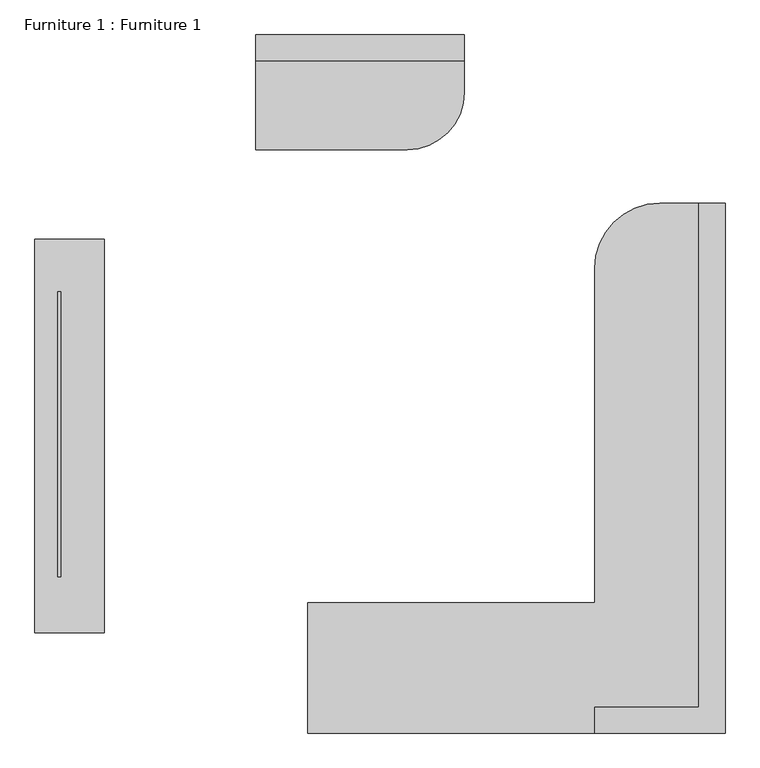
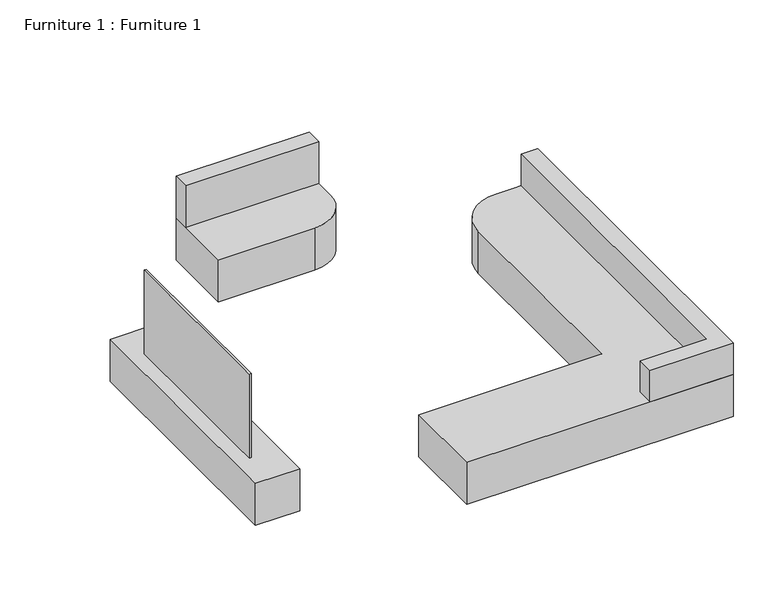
"""IFC4 building model written with IfcOpenShell, lengths in millimetres: furniture geometry, Furniture 1 : Furniture 1."""

from ifc_helpers import new_model, si_unit, point, frame, frame_2d, origin, origin_with_axes, place, context, project, spatial, polyline, circle_curve, trimmed, segment, composite_curve, outline, extrude, source, transform, mapped, element, save


def furniture_1_furniture_1_cbb80b0e(model_context):
    return source(origin(), model_context, "Body", "SweptSolid", [
        extrude(outline(polyline([(92841.985489, 16755.3603748), (92841.985489, 15115.3603748), (92821.985489, 15115.3603748), (92821.985489, 16755.3603748), (92841.985489, 16755.3603748)])), frame((0.0, 0.0, 400.0), z_axis=(0.0, 0.0, 1.0), x_axis=(1.0, 0.0, 0.0)), (0.0, 0.0, 1.0), 800.0),
        extrude(outline(polyline([(95163.480116, 18234.4281393), (95163.480116, 18084.4281393), (93963.480116, 18084.4281393), (93963.480116, 18234.4281393), (95163.480116, 18234.4281393)])), frame((0.0, 0.0, 400.0), z_axis=(0.0, 0.0, 1.0), x_axis=(1.0, 0.0, 0.0)), (0.0, 0.0, 1.0), 400.0),
        extrude(outline(composite_curve([segment(polyline([(95163.480116, 18234.4281393), (95163.480116, 17904.4281393)]), True, "CONTINUOUS"), segment(trimmed(circle_curve(frame_2d((94833.480116, 17904.4281393)), 330.0), [point((95163.480116, 17904.4281393))], [point((94833.480116, 17574.4281393))], False, "CARTESIAN"), True, "CONTINUOUS"), segment(polyline([(94833.480116, 17574.4281393), (93963.480116, 17574.4281393), (93963.480116, 18234.4281393), (95163.480116, 18234.4281393)]), True, "CONTINUOUS")], self_intersect=False)), origin_with_axes(), (0.0, 0.0, 1.0), 400.0),
        extrude(outline(polyline([(93091.985489, 17059.0614237), (93091.985489, 14794.9147517), (92691.985489, 14794.9147517), (92691.985489, 17059.0614237), (93091.985489, 17059.0614237)])), origin_with_axes(), (0.0, 0.0, 1.0), 400.0),
        extrude(outline(polyline([(96663.359081, 14217.0304058), (95913.359081, 14217.0304058), (95913.359081, 14367.0304058), (96513.359081, 14367.0304058), (96513.359081, 17267.0304058), (96663.359081, 17267.0304058), (96663.359081, 14217.0304058)])), frame((0.0, 0.0, 400.0), z_axis=(0.0, 0.0, 1.0), x_axis=(1.0, 0.0, 0.0)), (0.0, 0.0, 1.0), 300.0),
        extrude(outline(composite_curve([segment(polyline([(96288.359081, 17267.0304058), (96663.359081, 17267.0304058), (96663.359081, 14217.0304058), (94263.359081, 14217.0304058), (94263.359081, 14967.0304058), (95913.359081, 14967.0304058), (95913.359081, 16892.0304058)]), True, "CONTINUOUS"), segment(trimmed(circle_curve(frame_2d((96288.359081, 16892.0304058)), 375.0), [point((95913.359081, 16892.0304058))], [point((96288.359081, 17267.0304058))], False, "CARTESIAN"), True, "CONTINUOUS")], self_intersect=False)), origin_with_axes(), (0.0, 0.0, 1.0), 400.0),
    ])


if __name__ == "__main__":
    model = new_model("IFC4")
    model_context = context("Model", 3, world=origin())
    ifc_project = project(units=[si_unit("LENGTHUNIT", "METRE", prefix="MILLI")], contexts=[model_context])
    site = spatial("IfcSite", under=ifc_project)
    building = spatial("IfcBuilding", under=site)
    placement = place(None, origin())
    furniture_1_furniture_1_shape = furniture_1_furniture_1_cbb80b0e(model_context)
    element("IfcFurniture", 1, ObjectType="Furniture 1 : Furniture 1", at=placement, inside=building, context=model_context, shape_type="MappedRepresentation", body=[
        mapped(furniture_1_furniture_1_shape, transform((0.0, 0.0, 0.0), x_axis=(1.0, 0.0, 0.0), y_axis=(0.0, 1.0, 0.0), z_axis=(0.0, 0.0, 1.0))),
    ])
    save(model, "model.ifc")
